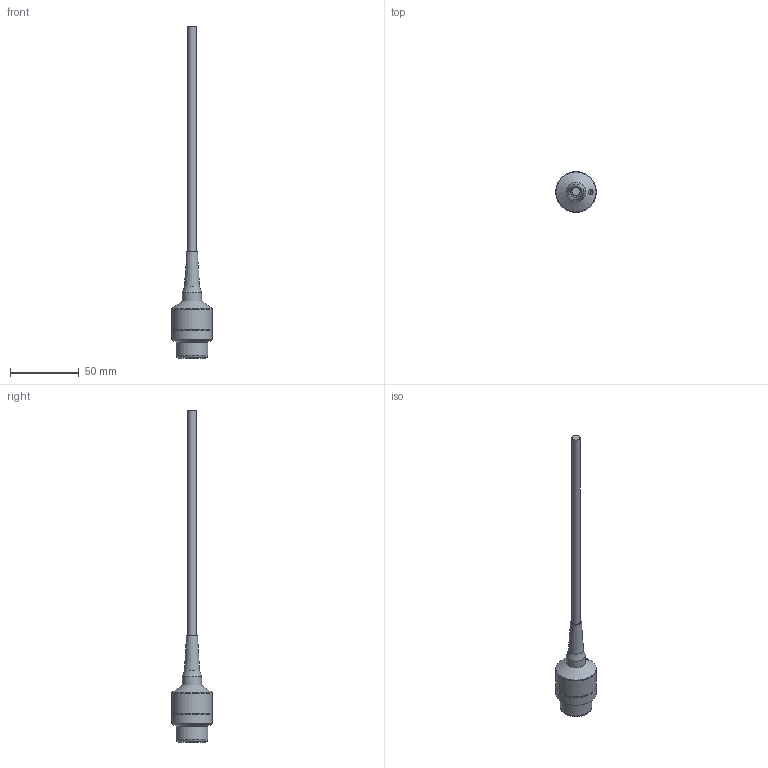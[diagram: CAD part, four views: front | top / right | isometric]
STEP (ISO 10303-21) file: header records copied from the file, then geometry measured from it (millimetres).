
FILE_DESCRIPTION(/* description */ (''),/* implementation_level */ '2;1');
FILE_NAME(/* name */ 'WL-21048-1-S--Public--v2.step',/* time_stamp */ '2023-05-24T14:42:36+02:00',/* author */ (''),/* organization */ (''),/* preprocessor_version */ 'ST-DEVELOPER v19.2',/* originating_system */ 'Autodesk Translation Framework v12.4.0.73',/* authorisation */ '');
FILE_SCHEMA (('AUTOMOTIVE_DESIGN { 1 0 10303 214 3 1 1 }'));
Length unit declared in the file: millimetre
Products named in the file (5): (Unsaved); Housing; Bend relief; Cable; Label
Assembly tree (4 placements, depth 2):
  (Unsaved)
    Housing
    Bend relief
    Cable
    Label
Bounding box: 29.5 x 29.5 x 241.33 mm (x, y, z)
Volume: 30230.4 mm3; surface area: 13068 mm2
Topology: 4 solids, 4 shells, 31 faces, 50 edges, 30 vertices
Faces by surface type: cylinder 11, plane 11, cone 8, torus 1
Full cylindrical faces by diameter (mm): 3.8 x1, 6 x1, 10 x1, 11.2 x1, 14 x1, 23 x1, 29.1 x2, 29.3 x1, 29.5 x2
Entity records: 909 total; most frequent: DIRECTION 159, CARTESIAN_POINT 153, ORIENTED_EDGE 100, AXIS2_PLACEMENT_3D 70, EDGE_CURVE 50, EDGE_LOOP 38, FACE_OUTER_BOUND 31, ADVANCED_FACE 31
